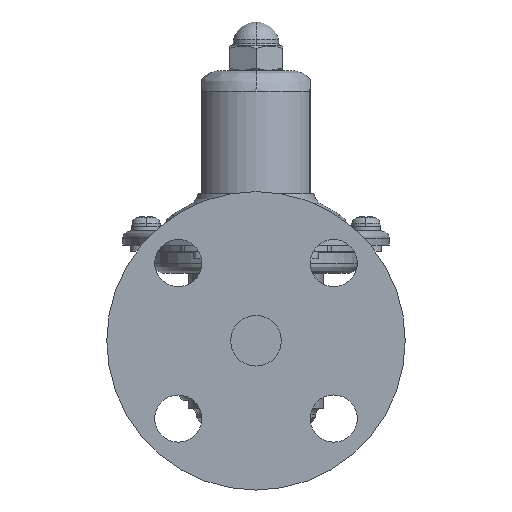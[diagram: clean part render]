
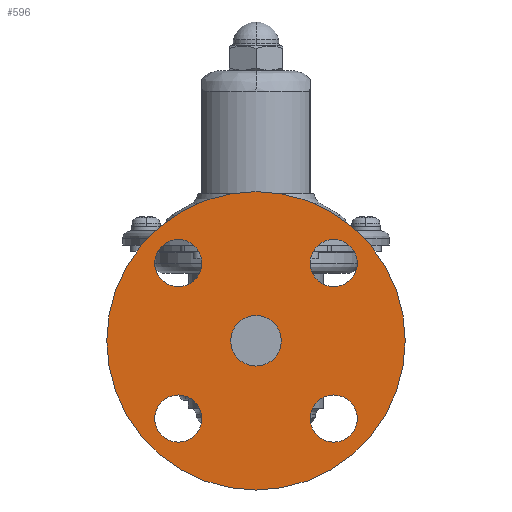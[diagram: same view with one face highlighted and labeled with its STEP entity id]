
A CAD part, left-side view. The second image highlights one B-rep face of the part: STEP entity #596.
In plain terms, the highlighted planar face has unit normal (-1, 0, 0).
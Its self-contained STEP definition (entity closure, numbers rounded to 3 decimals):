
#596=ADVANCED_FACE('',(#3297,#3298,#3299,#3300,#3301,#3302),#3296,.F.);
#3296=PLANE('',#7412);
#3297=FACE_OUTER_BOUND('',#7413,.T.);
#3298=FACE_BOUND('',#7414,.T.);
#3299=FACE_BOUND('',#7415,.T.);
#3300=FACE_BOUND('',#7416,.T.);
#3301=FACE_BOUND('',#7417,.T.);
#3302=FACE_BOUND('',#7418,.T.);
#7409=CARTESIAN_POINT('',(-97.5,-92.272,105.));
#7410=DIRECTION('',(1.,0.,0.));
#7411=DIRECTION('',(0.,0.,-1.));
#7412=AXIS2_PLACEMENT_3D('',#7409,#7410,#7411);
#7413=EDGE_LOOP('',(#10072,#10073));
#7414=EDGE_LOOP('',(#10074,#10075));
#7415=EDGE_LOOP('',(#10076,#10077));
#7416=EDGE_LOOP('',(#10078,#10079));
#7417=EDGE_LOOP('',(#10080,#10081));
#7418=EDGE_LOOP('',(#10082,#10083));
#10072=ORIENTED_EDGE('',*,*,#11826,.F.);
#10073=ORIENTED_EDGE('',*,*,#11827,.F.);
#10074=ORIENTED_EDGE('',*,*,#11828,.T.);
#10075=ORIENTED_EDGE('',*,*,#11829,.T.);
#10076=ORIENTED_EDGE('',*,*,#11830,.T.);
#10077=ORIENTED_EDGE('',*,*,#11831,.T.);
#10078=ORIENTED_EDGE('',*,*,#11832,.T.);
#10079=ORIENTED_EDGE('',*,*,#11833,.T.);
#10080=ORIENTED_EDGE('',*,*,#11834,.T.);
#10081=ORIENTED_EDGE('',*,*,#11835,.T.);
#10082=ORIENTED_EDGE('',*,*,#11836,.T.);
#10083=ORIENTED_EDGE('',*,*,#11837,.T.);
#11826=EDGE_CURVE('',#17134,#17135,#17136,.T.);
#11827=EDGE_CURVE('',#17135,#17134,#17142,.T.);
#11828=EDGE_CURVE('',#17148,#17149,#17150,.T.);
#11829=EDGE_CURVE('',#17149,#17148,#17156,.T.);
#11830=EDGE_CURVE('',#17162,#17163,#17164,.T.);
#11831=EDGE_CURVE('',#17163,#17162,#17170,.T.);
#11832=EDGE_CURVE('',#17176,#17177,#17178,.T.);
#11833=EDGE_CURVE('',#17177,#17176,#17184,.T.);
#11834=EDGE_CURVE('',#17190,#17191,#17192,.T.);
#11835=EDGE_CURVE('',#17191,#17190,#17198,.T.);
#11836=EDGE_CURVE('',#17204,#17205,#17206,.T.);
#11837=EDGE_CURVE('',#17205,#17204,#17212,.T.);
#17134=VERTEX_POINT('',#23461);
#17135=VERTEX_POINT('',#23462);
#17136=CIRCLE('',#23466,47.5);
#17142=CIRCLE('',#23470,47.5);
#17148=VERTEX_POINT('',#23471);
#17149=VERTEX_POINT('',#23472);
#17150=CIRCLE('',#23476,7.5);
#17156=CIRCLE('',#23480,7.5);
#17162=VERTEX_POINT('',#23481);
#17163=VERTEX_POINT('',#23482);
#17164=CIRCLE('',#23486,7.5);
#17170=CIRCLE('',#23490,7.5);
#17176=VERTEX_POINT('',#23491);
#17177=VERTEX_POINT('',#23492);
#17178=CIRCLE('',#23496,7.5);
#17184=CIRCLE('',#23500,7.5);
#17190=VERTEX_POINT('',#23501);
#17191=VERTEX_POINT('',#23502);
#17192=CIRCLE('',#23506,7.5);
#17198=CIRCLE('',#23510,7.5);
#17204=VERTEX_POINT('',#23511);
#17205=VERTEX_POINT('',#23512);
#17206=CIRCLE('',#23516,8.05);
#17212=CIRCLE('',#23520,8.05);
#23461=CARTESIAN_POINT('',(-97.5,0.,47.5));
#23462=CARTESIAN_POINT('',(-97.5,0.,-47.5));
#23463=CARTESIAN_POINT('',(-97.5,0.,0.));
#23464=DIRECTION('',(1.,0.,0.));
#23465=DIRECTION('',(0.,0.,-1.));
#23466=AXIS2_PLACEMENT_3D('',#23463,#23464,#23465);
#23467=CARTESIAN_POINT('',(-97.5,0.,0.));
#23468=DIRECTION('',(1.,0.,0.));
#23469=DIRECTION('',(0.,0.,-1.));
#23470=AXIS2_PLACEMENT_3D('',#23467,#23468,#23469);
#23471=CARTESIAN_POINT('',(-97.5,-24.749,-17.249));
#23472=CARTESIAN_POINT('',(-97.5,-24.749,-32.249));
#23473=CARTESIAN_POINT('',(-97.5,-24.749,-24.749));
#23474=DIRECTION('',(1.,0.,0.));
#23475=DIRECTION('',(0.,0.,1.));
#23476=AXIS2_PLACEMENT_3D('',#23473,#23474,#23475);
#23477=CARTESIAN_POINT('',(-97.5,-24.749,-24.749));
#23478=DIRECTION('',(1.,0.,0.));
#23479=DIRECTION('',(0.,0.,1.));
#23480=AXIS2_PLACEMENT_3D('',#23477,#23478,#23479);
#23481=CARTESIAN_POINT('',(-97.5,24.749,32.249));
#23482=CARTESIAN_POINT('',(-97.5,24.749,17.249));
#23483=CARTESIAN_POINT('',(-97.5,24.749,24.749));
#23484=DIRECTION('',(1.,0.,0.));
#23485=DIRECTION('',(0.,0.,1.));
#23486=AXIS2_PLACEMENT_3D('',#23483,#23484,#23485);
#23487=CARTESIAN_POINT('',(-97.5,24.749,24.749));
#23488=DIRECTION('',(1.,0.,0.));
#23489=DIRECTION('',(0.,0.,1.));
#23490=AXIS2_PLACEMENT_3D('',#23487,#23488,#23489);
#23491=CARTESIAN_POINT('',(-97.5,-24.749,32.249));
#23492=CARTESIAN_POINT('',(-97.5,-24.749,17.249));
#23493=CARTESIAN_POINT('',(-97.5,-24.749,24.749));
#23494=DIRECTION('',(1.,0.,0.));
#23495=DIRECTION('',(0.,0.,1.));
#23496=AXIS2_PLACEMENT_3D('',#23493,#23494,#23495);
#23497=CARTESIAN_POINT('',(-97.5,-24.749,24.749));
#23498=DIRECTION('',(1.,0.,0.));
#23499=DIRECTION('',(0.,0.,1.));
#23500=AXIS2_PLACEMENT_3D('',#23497,#23498,#23499);
#23501=CARTESIAN_POINT('',(-97.5,24.749,-17.249));
#23502=CARTESIAN_POINT('',(-97.5,24.749,-32.249));
#23503=CARTESIAN_POINT('',(-97.5,24.749,-24.749));
#23504=DIRECTION('',(1.,0.,0.));
#23505=DIRECTION('',(0.,0.,1.));
#23506=AXIS2_PLACEMENT_3D('',#23503,#23504,#23505);
#23507=CARTESIAN_POINT('',(-97.5,24.749,-24.749));
#23508=DIRECTION('',(1.,0.,0.));
#23509=DIRECTION('',(0.,0.,1.));
#23510=AXIS2_PLACEMENT_3D('',#23507,#23508,#23509);
#23511=CARTESIAN_POINT('',(-97.5,0.,8.05));
#23512=CARTESIAN_POINT('',(-97.5,0.,-8.05));
#23513=CARTESIAN_POINT('',(-97.5,0.,0.));
#23514=DIRECTION('',(1.,0.,0.));
#23515=DIRECTION('',(0.,0.,1.));
#23516=AXIS2_PLACEMENT_3D('',#23513,#23514,#23515);
#23517=CARTESIAN_POINT('',(-97.5,0.,0.));
#23518=DIRECTION('',(1.,0.,0.));
#23519=DIRECTION('',(0.,0.,1.));
#23520=AXIS2_PLACEMENT_3D('',#23517,#23518,#23519);
